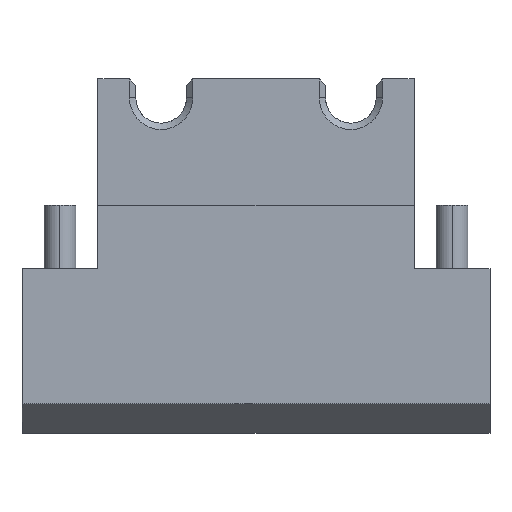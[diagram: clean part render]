
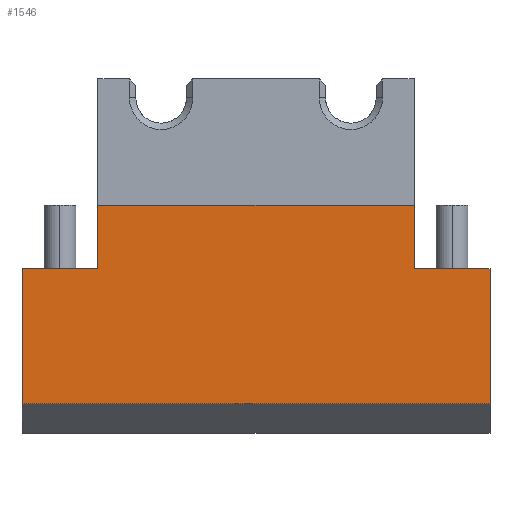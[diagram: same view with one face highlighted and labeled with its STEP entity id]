
A CAD part, left-side view. The second image highlights one B-rep face of the part: STEP entity #1546.
In plain terms, the highlighted planar face has unit normal (-1, 0, 0).
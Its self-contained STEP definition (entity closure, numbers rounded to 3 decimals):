
#38 = CARTESIAN_POINT ( 'NONE',  ( 0., 14., 18. ) ) ;
#93 = LINE ( 'NONE', #1821, #196 ) ;
#105 = DIRECTION ( 'NONE',  ( 0., 1., 0. ) ) ;
#126 = EDGE_CURVE ( 'NONE', #1076, #1579, #925, .T. ) ;
#133 = VECTOR ( 'NONE', #1715, 1000. ) ;
#134 = ORIENTED_EDGE ( 'NONE', *, *, #1809, .F. ) ;
#142 = DIRECTION ( 'NONE',  ( 0., -1., 0. ) ) ;
#196 = VECTOR ( 'NONE', #1561, 1000. ) ;
#220 = ORIENTED_EDGE ( 'NONE', *, *, #1498, .F. ) ;
#336 = CARTESIAN_POINT ( 'NONE',  ( 0., 20., 2.309 ) ) ;
#344 = ORIENTED_EDGE ( 'NONE', *, *, #1243, .F. ) ;
#453 = VECTOR ( 'NONE', #105, 1000. ) ;
#482 = VECTOR ( 'NONE', #1781, 1000. ) ;
#491 = CARTESIAN_POINT ( 'NONE',  ( 0., -11., 13. ) ) ;
#548 = CARTESIAN_POINT ( 'NONE',  ( 0., -17., 18. ) ) ;
#566 = CARTESIAN_POINT ( 'NONE',  ( 0., 14., 13. ) ) ;
#604 = ORIENTED_EDGE ( 'NONE', *, *, #1100, .T. ) ;
#626 = VERTEX_POINT ( 'NONE', #1188 ) ;
#639 = ORIENTED_EDGE ( 'NONE', *, *, #1644, .T. ) ;
#658 = ORIENTED_EDGE ( 'NONE', *, *, #1038, .F. ) ;
#666 = VERTEX_POINT ( 'NONE', #1543 ) ;
#681 = LINE ( 'NONE', #1163, #1650 ) ;
#694 = CARTESIAN_POINT ( 'NONE',  ( 0., 20., 28. ) ) ;
#704 = LINE ( 'NONE', #548, #453 ) ;
#712 = VECTOR ( 'NONE', #142, 1000. ) ;
#806 = DIRECTION ( 'NONE',  ( 0., -1., 0. ) ) ;
#867 = AXIS2_PLACEMENT_3D ( 'NONE', #694, #1635, #1117 ) ;
#925 = LINE ( 'NONE', #1067, #482 ) ;
#933 = VERTEX_POINT ( 'NONE', #1499 ) ;
#1038 = EDGE_CURVE ( 'NONE', #1104, #666, #1108, .T. ) ;
#1056 = EDGE_LOOP ( 'NONE', ( #639, #1492, #344, #604, #1564, #658, #220, #134 ) ) ;
#1064 = VERTEX_POINT ( 'NONE', #1918 ) ;
#1067 = CARTESIAN_POINT ( 'NONE',  ( 0., 14., 13. ) ) ;
#1076 = VERTEX_POINT ( 'NONE', #566 ) ;
#1089 = CARTESIAN_POINT ( 'NONE',  ( 0., 20., 2.309 ) ) ;
#1100 = EDGE_CURVE ( 'NONE', #933, #1905, #93, .T. ) ;
#1104 = VERTEX_POINT ( 'NONE', #1891 ) ;
#1108 = LINE ( 'NONE', #1405, #1885 ) ;
#1117 = DIRECTION ( 'NONE',  ( 0., 0., 1. ) ) ;
#1124 = DIRECTION ( 'NONE',  ( 0., 0., -1. ) ) ;
#1163 = CARTESIAN_POINT ( 'NONE',  ( 0., -11., 28. ) ) ;
#1188 = CARTESIAN_POINT ( 'NONE',  ( 0., -11., 13. ) ) ;
#1243 = EDGE_CURVE ( 'NONE', #933, #1076, #1639, .T. ) ;
#1255 = EDGE_CURVE ( 'NONE', #1905, #666, #1750, .T. ) ;
#1325 = CARTESIAN_POINT ( 'NONE',  ( 0., 20., 13. ) ) ;
#1360 = LINE ( 'NONE', #491, #1729 ) ;
#1405 = CARTESIAN_POINT ( 'NONE',  ( 0., -17., 28. ) ) ;
#1411 = PLANE ( 'NONE',  #867 ) ;
#1428 = FACE_OUTER_BOUND ( 'NONE', #1056, .T. ) ;
#1492 = ORIENTED_EDGE ( 'NONE', *, *, #126, .F. ) ;
#1498 = EDGE_CURVE ( 'NONE', #626, #1104, #1360, .T. ) ;
#1499 = CARTESIAN_POINT ( 'NONE',  ( 0., 20., 13. ) ) ;
#1543 = CARTESIAN_POINT ( 'NONE',  ( 0., -17., 2.309 ) ) ;
#1546 = ADVANCED_FACE ( 'NONE', ( #1428 ), #1411, .T. ) ;
#1561 = DIRECTION ( 'NONE',  ( 0., 0., -1. ) ) ;
#1564 = ORIENTED_EDGE ( 'NONE', *, *, #1255, .T. ) ;
#1579 = VERTEX_POINT ( 'NONE', #38 ) ;
#1635 = DIRECTION ( 'NONE',  ( -1., 0., 0. ) ) ;
#1639 = LINE ( 'NONE', #1325, #712 ) ;
#1644 = EDGE_CURVE ( 'NONE', #1064, #1579, #704, .T. ) ;
#1650 = VECTOR ( 'NONE', #1124, 1000. ) ;
#1686 = DIRECTION ( 'NONE',  ( 0., 0., -1. ) ) ;
#1715 = DIRECTION ( 'NONE',  ( 0., -1., 0. ) ) ;
#1729 = VECTOR ( 'NONE', #806, 1000. ) ;
#1750 = LINE ( 'NONE', #1089, #133 ) ;
#1781 = DIRECTION ( 'NONE',  ( 0., 0., 1. ) ) ;
#1809 = EDGE_CURVE ( 'NONE', #1064, #626, #681, .T. ) ;
#1821 = CARTESIAN_POINT ( 'NONE',  ( 0., 20., 28. ) ) ;
#1885 = VECTOR ( 'NONE', #1686, 1000. ) ;
#1891 = CARTESIAN_POINT ( 'NONE',  ( 0., -17., 13. ) ) ;
#1905 = VERTEX_POINT ( 'NONE', #336 ) ;
#1918 = CARTESIAN_POINT ( 'NONE',  ( 0., -11., 18. ) ) ;
